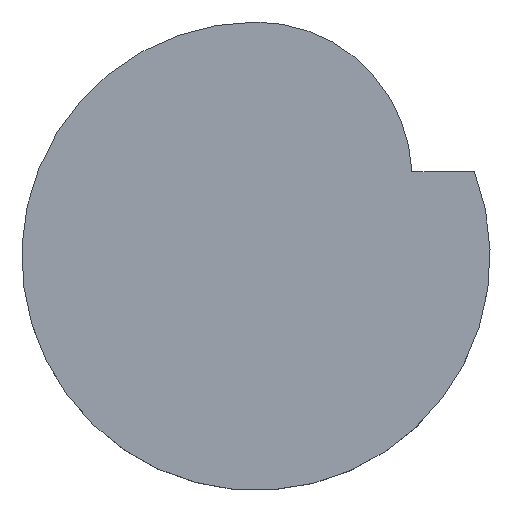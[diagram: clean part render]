
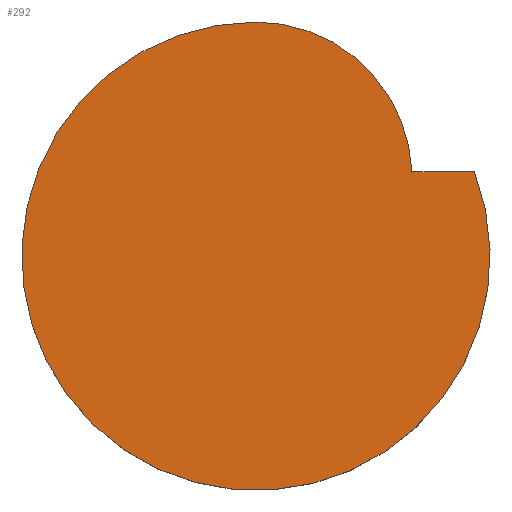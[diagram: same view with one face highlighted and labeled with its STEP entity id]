
A CAD part, top view. The second image highlights one B-rep face of the part: STEP entity #292.
In plain terms, the highlighted planar face has unit normal (0, 0, 1).
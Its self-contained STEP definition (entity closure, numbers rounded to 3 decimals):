
#35 = VERTEX_POINT('',#36);
#36 = CARTESIAN_POINT('',(0.,30.,10.));
#43 = CYLINDRICAL_SURFACE('',#44,30.);
#44 = AXIS2_PLACEMENT_3D('',#45,#46,#47);
#45 = CARTESIAN_POINT('',(0.,0.,0.));
#46 = DIRECTION('',(-0.,-0.,-1.));
#47 = DIRECTION('',(1.,0.,0.));
#55 = CYLINDRICAL_SURFACE('',#56,20.);
#56 = AXIS2_PLACEMENT_3D('',#57,#58,#59);
#57 = CARTESIAN_POINT('',(0.,10.,0.));
#58 = DIRECTION('',(-0.,-0.,-1.));
#59 = DIRECTION('',(1.,0.,0.));
#67 = EDGE_CURVE('',#35,#68,#70,.T.);
#68 = VERTEX_POINT('',#69);
#69 = CARTESIAN_POINT('',(27.983,10.813,10.));
#70 = SURFACE_CURVE('',#71,(#76,#83),.PCURVE_S1.);
#71 = CIRCLE('',#72,30.);
#72 = AXIS2_PLACEMENT_3D('',#73,#74,#75);
#73 = CARTESIAN_POINT('',(0.,0.,10.));
#74 = DIRECTION('',(0.,0.,1.));
#75 = DIRECTION('',(1.,0.,0.));
#76 = PCURVE('',#43,#77);
#77 = DEFINITIONAL_REPRESENTATION('',(#78),#82);
#78 = LINE('',#79,#80);
#79 = CARTESIAN_POINT('',(-0.,-10.));
#80 = VECTOR('',#81,1.);
#81 = DIRECTION('',(-1.,0.));
#82 = ( GEOMETRIC_REPRESENTATION_CONTEXT(2) 
PARAMETRIC_REPRESENTATION_CONTEXT() REPRESENTATION_CONTEXT('2D SPACE',''
  ) );
#83 = PCURVE('',#84,#89);
#84 = PLANE('',#85);
#85 = AXIS2_PLACEMENT_3D('',#86,#87,#88);
#86 = CARTESIAN_POINT('',(0.,30.,10.));
#87 = DIRECTION('',(0.,0.,-1.));
#88 = DIRECTION('',(-1.,0.,0.));
#89 = DEFINITIONAL_REPRESENTATION('',(#90),#98);
#90 = ( BOUNDED_CURVE() B_SPLINE_CURVE(2,(#91,#92,#93,#94,#95,#96,#97),
.UNSPECIFIED.,.T.,.F.) B_SPLINE_CURVE_WITH_KNOTS((1,2,2,2,2,1),(
    -2.094,0.,2.094,4.189,6.283,
8.378),.UNSPECIFIED.) CURVE() GEOMETRIC_REPRESENTATION_ITEM() 
RATIONAL_B_SPLINE_CURVE((1.,0.5,1.,0.5,1.,0.5,1.)) REPRESENTATION_ITEM(
  '') );
#91 = CARTESIAN_POINT('',(-30.,-30.));
#92 = CARTESIAN_POINT('',(-30.,21.962));
#93 = CARTESIAN_POINT('',(15.,-4.019));
#94 = CARTESIAN_POINT('',(60.,-30.));
#95 = CARTESIAN_POINT('',(15.,-55.981));
#96 = CARTESIAN_POINT('',(-30.,-81.962));
#97 = CARTESIAN_POINT('',(-30.,-30.));
#98 = ( GEOMETRIC_REPRESENTATION_CONTEXT(2) 
PARAMETRIC_REPRESENTATION_CONTEXT() REPRESENTATION_CONTEXT('2D SPACE',''
  ) );
#116 = PLANE('',#117);
#117 = AXIS2_PLACEMENT_3D('',#118,#119,#120);
#118 = CARTESIAN_POINT('',(19.983,10.813,0.));
#119 = DIRECTION('',(0.,1.,0.));
#120 = DIRECTION('',(1.,0.,0.));
#165 = VERTEX_POINT('',#166);
#166 = CARTESIAN_POINT('',(19.983,10.813,10.));
#187 = EDGE_CURVE('',#165,#68,#188,.T.);
#188 = SURFACE_CURVE('',#189,(#193,#200),.PCURVE_S1.);
#189 = LINE('',#190,#191);
#190 = CARTESIAN_POINT('',(19.983,10.813,10.));
#191 = VECTOR('',#192,1.);
#192 = DIRECTION('',(1.,0.,0.));
#193 = PCURVE('',#116,#194);
#194 = DEFINITIONAL_REPRESENTATION('',(#195),#199);
#195 = LINE('',#196,#197);
#196 = CARTESIAN_POINT('',(0.,-10.));
#197 = VECTOR('',#198,1.);
#198 = DIRECTION('',(1.,0.));
#199 = ( GEOMETRIC_REPRESENTATION_CONTEXT(2) 
PARAMETRIC_REPRESENTATION_CONTEXT() REPRESENTATION_CONTEXT('2D SPACE',''
  ) );
#200 = PCURVE('',#84,#201);
#201 = DEFINITIONAL_REPRESENTATION('',(#202),#206);
#202 = LINE('',#203,#204);
#203 = CARTESIAN_POINT('',(-19.983,-19.187));
#204 = VECTOR('',#205,1.);
#205 = DIRECTION('',(-1.,0.));
#206 = ( GEOMETRIC_REPRESENTATION_CONTEXT(2) 
PARAMETRIC_REPRESENTATION_CONTEXT() REPRESENTATION_CONTEXT('2D SPACE',''
  ) );
#234 = EDGE_CURVE('',#165,#35,#235,.T.);
#235 = SURFACE_CURVE('',#236,(#241,#248),.PCURVE_S1.);
#236 = CIRCLE('',#237,20.);
#237 = AXIS2_PLACEMENT_3D('',#238,#239,#240);
#238 = CARTESIAN_POINT('',(0.,10.,10.));
#239 = DIRECTION('',(0.,0.,1.));
#240 = DIRECTION('',(1.,0.,0.));
#241 = PCURVE('',#55,#242);
#242 = DEFINITIONAL_REPRESENTATION('',(#243),#247);
#243 = LINE('',#244,#245);
#244 = CARTESIAN_POINT('',(-0.,-10.));
#245 = VECTOR('',#246,1.);
#246 = DIRECTION('',(-1.,0.));
#247 = ( GEOMETRIC_REPRESENTATION_CONTEXT(2) 
PARAMETRIC_REPRESENTATION_CONTEXT() REPRESENTATION_CONTEXT('2D SPACE',''
  ) );
#248 = PCURVE('',#84,#249);
#249 = DEFINITIONAL_REPRESENTATION('',(#250),#258);
#250 = ( BOUNDED_CURVE() B_SPLINE_CURVE(2,(#251,#252,#253,#254,#255,#256
,#257),.UNSPECIFIED.,.F.,.F.) B_SPLINE_CURVE_WITH_KNOTS((1,2,2,2,2,1),(
    -2.094,0.,2.094,4.189,6.283,
8.378),.UNSPECIFIED.) CURVE() GEOMETRIC_REPRESENTATION_ITEM() 
RATIONAL_B_SPLINE_CURVE((1.,0.5,1.,0.5,1.,0.5,1.)) REPRESENTATION_ITEM(
  '') );
#251 = CARTESIAN_POINT('',(-20.,-20.));
#252 = CARTESIAN_POINT('',(-20.,14.641));
#253 = CARTESIAN_POINT('',(10.,-2.679));
#254 = CARTESIAN_POINT('',(40.,-20.));
#255 = CARTESIAN_POINT('',(10.,-37.321));
#256 = CARTESIAN_POINT('',(-20.,-54.641));
#257 = CARTESIAN_POINT('',(-20.,-20.));
#258 = ( GEOMETRIC_REPRESENTATION_CONTEXT(2) 
PARAMETRIC_REPRESENTATION_CONTEXT() REPRESENTATION_CONTEXT('2D SPACE',''
  ) );
#292 = ADVANCED_FACE('',(#293),#84,.F.);
#293 = FACE_BOUND('',#294,.T.);
#294 = EDGE_LOOP('',(#295,#296,#297));
#295 = ORIENTED_EDGE('',*,*,#67,.T.);
#296 = ORIENTED_EDGE('',*,*,#187,.F.);
#297 = ORIENTED_EDGE('',*,*,#234,.T.);
